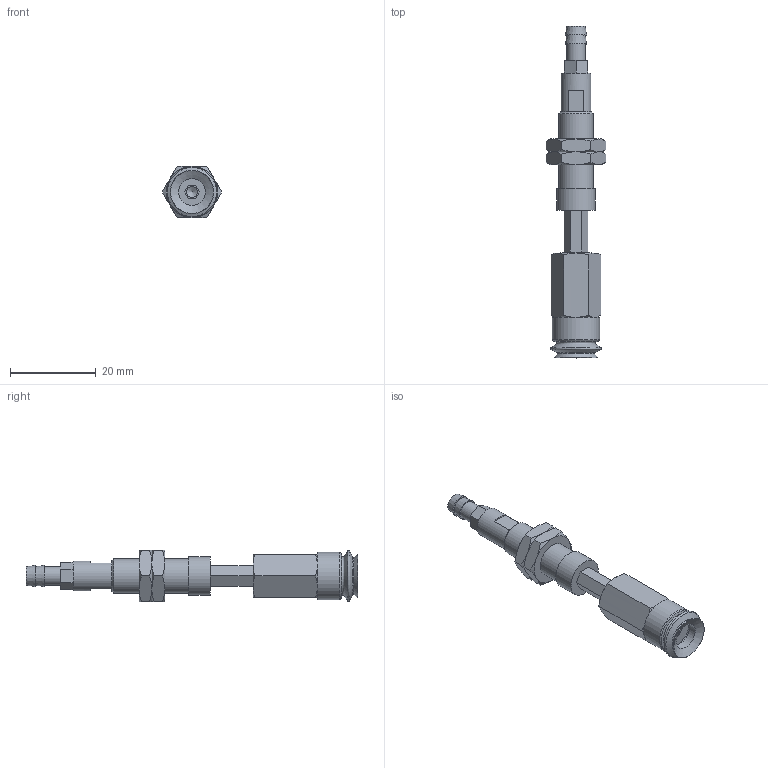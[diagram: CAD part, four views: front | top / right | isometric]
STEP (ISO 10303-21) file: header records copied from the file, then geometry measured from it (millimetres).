
FILE_DESCRIPTION(('STEP AP203'),'1');
FILE_NAME('-T.stp','2025-08-27T06:47:33',(' '),(' '),'Spatial InterOp 3D',' ',' ');
FILE_SCHEMA(('CONFIG_CONTROL_DESIGN'));
Length unit declared in the file: millimetre
Products named in the file (8): BNABPJTH-10-10-※-T; ADAPTER; NAPCTH-10-10-MBODY; Adapter-10-NAPJ; NAPJH-10-10-NUT; NAPJTH-10-10-FBODY; BPJG-10-※; T
Assembly tree (8 placements, depth 2):
  BNABPJTH-10-10-※-T
    ADAPTER
    NAPCTH-10-10-MBODY
    Adapter-10-NAPJ
    NAPJH-10-10-NUT  x2
    NAPJTH-10-10-FBODY
    BPJG-10-※
    T
Bounding box: 13.86 x 77.5 x 12 mm (x, y, z)
Volume: 4211.5 mm3; surface area: 4902 mm2
Topology: 8 solids, 8 shells, 150 faces, 320 edges, 196 vertices
Faces by surface type: plane 72, cone 54, cylinder 17, torus 7
Full cylindrical faces by diameter (mm): 2.5 x1, 3 x1, 4.134 x2, 4.3 x1, 4.6 x1, 5 x2, 6.266 x1, 7 x1, 7.188 x2, 7.8 x1, 8 x2, 9 x1, 11 x1
Entity records: 3926 total; most frequent: CARTESIAN_POINT 1009, DIRECTION 528, ORIENTED_EDGE 444, EDGE_CURVE 222, AXIS2_PLACEMENT_3D 218, EDGE_LOOP 186, VERTEX_POINT 159, FACE_OUTER_BOUND 150
